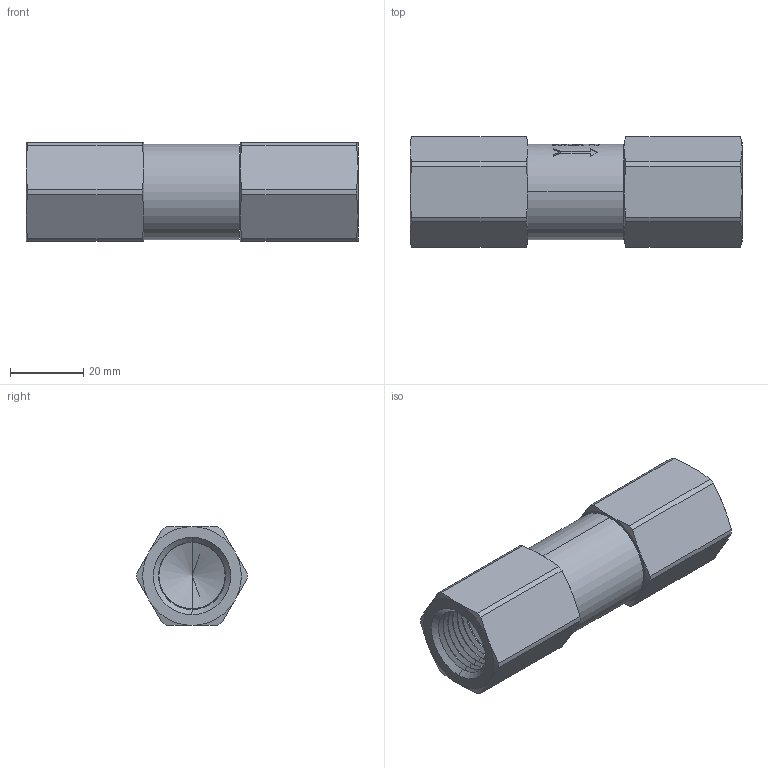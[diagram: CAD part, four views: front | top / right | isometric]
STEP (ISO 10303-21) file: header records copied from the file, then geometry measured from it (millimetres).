
FILE_DESCRIPTION (( 'STEP AP203' ), '1' );
FILE_NAME ('PCV-8F.STEP', '2019-07-23T11:59:20', ( '' ), ( '' ), 'SwSTEP 2.0', 'SolidWorks 2011', '' );
FILE_SCHEMA (( 'CONFIG_CONTROL_DESIGN' ));
Length unit declared in the file: inch
Products named in the file (2): PCV-8F; Part3^PCV-8F_CM
Assembly tree (1 placements, depth 2):
  PCV-8F
    Part3^PCV-8F_CM
Bounding box: 90.86 x 30.35 x 26.97 mm (x, y, z)
Volume: 43005.8 mm3; surface area: 13614.7 mm2
Topology: 1 solids, 1 shells, 421 faces, 1052 edges, 657 vertices
Faces by surface type: plane 147, cone 133, cylinder 71, bspline 70
Entity records: 18322 total; most frequent: CARTESIAN_POINT 8736, ORIENTED_EDGE 2096, DIRECTION 1728, EDGE_CURVE 1048, VERTEX_POINT 657, AXIS2_PLACEMENT_3D 651, EDGE_LOOP 449, VECTOR 426
